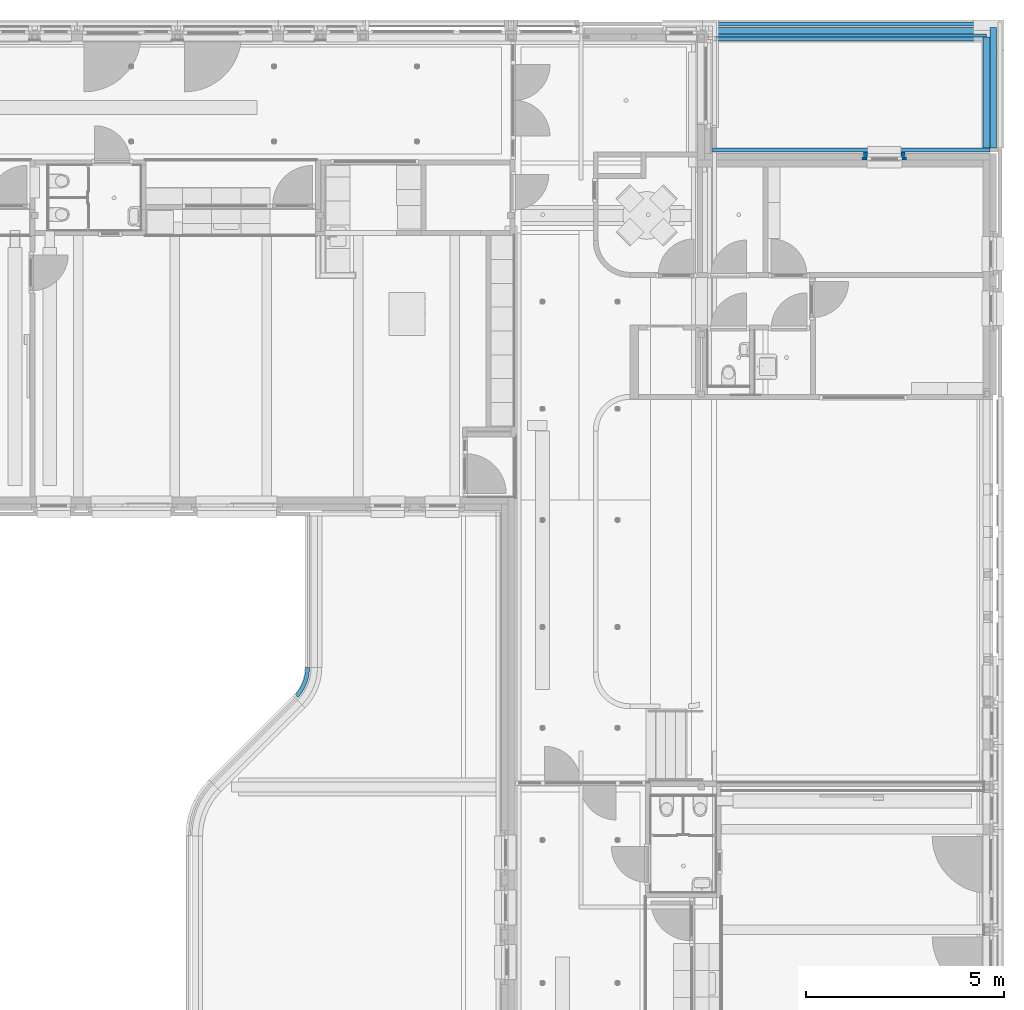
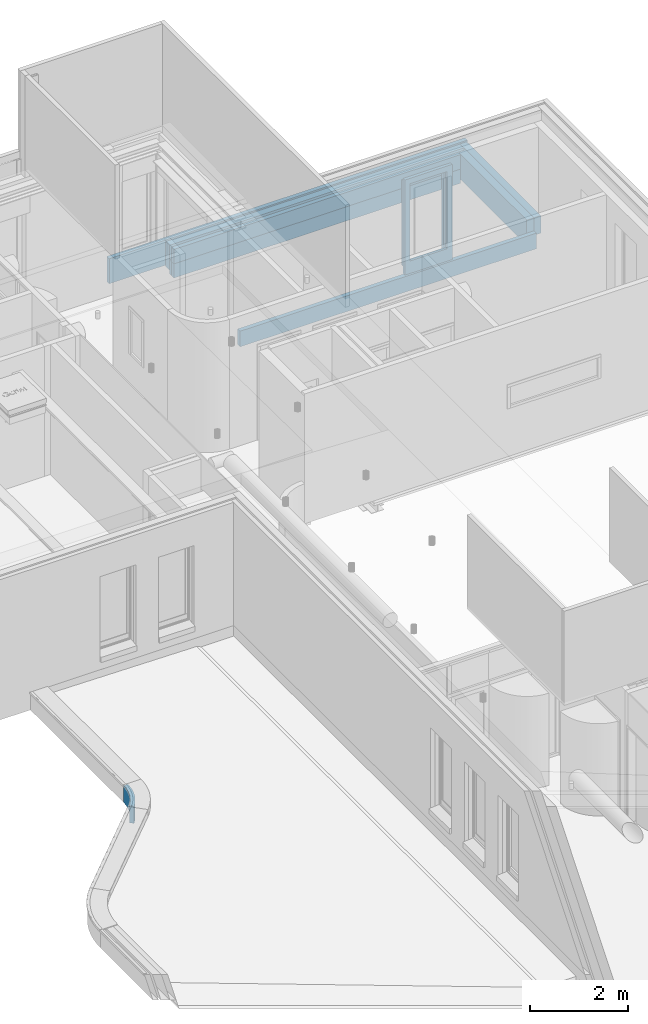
# One storey, part 59 of 128: 12 walls, 1 opening.
"""IFC2X3 building model written with IfcOpenShell, lengths in millimetres."""

from ifc_helpers import new_model, entity, si_unit, converted_unit, derived_unit, direction, frame, frame_2d, origin, place, context, subcontext, project, spatial, polyline, circle_curve, parameter, trimmed, segment, composite_curve, rectangle, outline, extrude, material, layer, layer_set, layer_usage, type_object, element, save


model = new_model("IFC2X3")

# Units and contexts
model_context = context("Model", 3, precision=0.01, world=origin(), true_north=direction((6.123031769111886e-17, 1.0)))
body_context = subcontext(model_context, "Body", "Model", "MODEL_VIEW")
ifc_project = project(units=[si_unit("LENGTHUNIT", "METRE", prefix="MILLI"), si_unit("AREAUNIT", "SQUARE_METRE"), si_unit("VOLUMEUNIT", "CUBIC_METRE"), converted_unit("PLANEANGLEUNIT", "DEGREE", entity("IfcRatioMeasure", 0.017453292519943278), si_unit("PLANEANGLEUNIT", "RADIAN"), dimensions=[0, 0, 0, 0, 0, 0, 0]), si_unit("MASSUNIT", "GRAM", prefix="KILO"), derived_unit("MASSDENSITYUNIT", [(si_unit("MASSUNIT", "GRAM", prefix="KILO"), 1), (si_unit("LENGTHUNIT", "METRE"), -3)]), derived_unit("IONCONCENTRATIONUNIT", [(si_unit("MASSUNIT", "GRAM", prefix="KILO"), 1), (si_unit("LENGTHUNIT", "METRE"), -3)]), derived_unit("MOMENTOFINERTIAUNIT", [(si_unit("LENGTHUNIT", "METRE"), 4)]), si_unit("TIMEUNIT", "SECOND"), si_unit("FREQUENCYUNIT", "HERTZ"), si_unit("THERMODYNAMICTEMPERATUREUNIT", "DEGREE_CELSIUS"), derived_unit("THERMALTRANSMITTANCEUNIT", [(si_unit("MASSUNIT", "GRAM", prefix="KILO"), 1), (si_unit("THERMODYNAMICTEMPERATUREUNIT", "KELVIN"), -1), (si_unit("TIMEUNIT", "SECOND"), -3)]), derived_unit("THERMALCONDUCTANCEUNIT", [(si_unit("MASSUNIT", "GRAM", prefix="KILO"), 1), (si_unit("THERMODYNAMICTEMPERATUREUNIT", "KELVIN"), -1), (si_unit("TIMEUNIT", "SECOND"), -3), (si_unit("LENGTHUNIT", "METRE"), 1)]), derived_unit("VOLUMETRICFLOWRATEUNIT", [(si_unit("LENGTHUNIT", "METRE"), 3), (si_unit("TIMEUNIT", "SECOND"), -1)]), derived_unit("MASSFLOWRATEUNIT", [(si_unit("MASSUNIT", "GRAM", prefix="KILO"), 1), (si_unit("TIMEUNIT", "SECOND"), -1)]), derived_unit("ROTATIONALFREQUENCYUNIT", [(si_unit("TIMEUNIT", "SECOND"), -1)]), si_unit("ELECTRICCURRENTUNIT", "AMPERE"), si_unit("ELECTRICVOLTAGEUNIT", "VOLT"), si_unit("POWERUNIT", "WATT"), si_unit("FORCEUNIT", "NEWTON", prefix="KILO"), si_unit("ILLUMINANCEUNIT", "LUX"), si_unit("LUMINOUSFLUXUNIT", "LUMEN"), si_unit("LUMINOUSINTENSITYUNIT", "CANDELA"), derived_unit("USERDEFINED", [(si_unit("MASSUNIT", "GRAM", prefix="KILO"), -1), (si_unit("LENGTHUNIT", "METRE"), -2), (si_unit("TIMEUNIT", "SECOND"), 3), (si_unit("LUMINOUSFLUXUNIT", "LUMEN"), 1)]), derived_unit("USERDEFINED", [(si_unit("MASSUNIT", "GRAM", prefix="KILO"), 1), (si_unit("TIMEUNIT", "SECOND"), -3), (si_unit("LENGTHUNIT", "METRE"), 3), (si_unit("ELECTRICCURRENTUNIT", "AMPERE"), -2)]), derived_unit("SOUNDPOWERUNIT", [(si_unit("MASSUNIT", "GRAM", prefix="KILO"), 1), (si_unit("TIMEUNIT", "SECOND"), -3), (si_unit("LENGTHUNIT", "METRE"), 2)]), derived_unit("SOUNDPRESSUREUNIT", [(si_unit("MASSUNIT", "GRAM", prefix="KILO"), 1), (si_unit("LENGTHUNIT", "METRE"), -1), (si_unit("TIMEUNIT", "SECOND"), -2)]), derived_unit("LINEARVELOCITYUNIT", [(si_unit("LENGTHUNIT", "METRE"), 1), (si_unit("TIMEUNIT", "SECOND"), -1)]), si_unit("PRESSUREUNIT", "PASCAL"), derived_unit("USERDEFINED", [(si_unit("MASSUNIT", "GRAM", prefix="KILO"), 1), (si_unit("LENGTHUNIT", "METRE"), -2), (si_unit("TIMEUNIT", "SECOND"), -2)]), derived_unit("LINEARFORCEUNIT", [(si_unit("MASSUNIT", "GRAM", prefix="KILO"), 1), (si_unit("TIMEUNIT", "SECOND"), -2)]), derived_unit("PLANARFORCEUNIT", [(si_unit("MASSUNIT", "GRAM", prefix="KILO"), 1), (si_unit("LENGTHUNIT", "METRE"), -1), (si_unit("TIMEUNIT", "SECOND"), -2)]), derived_unit("SPECIFICHEATCAPACITYUNIT", [(si_unit("THERMODYNAMICTEMPERATUREUNIT", "KELVIN"), -1), (si_unit("LENGTHUNIT", "METRE"), 2), (si_unit("TIMEUNIT", "SECOND"), -2)]), derived_unit("HEATINGVALUEUNIT", [(si_unit("LENGTHUNIT", "METRE"), 2), (si_unit("TIMEUNIT", "SECOND"), -2)]), derived_unit("VAPORPERMEABILITYUNIT", [(si_unit("LENGTHUNIT", "METRE"), -1), (si_unit("TIMEUNIT", "SECOND"), 1)]), derived_unit("DYNAMICVISCOSITYUNIT", [(si_unit("MASSUNIT", "GRAM", prefix="KILO"), 1), (si_unit("TIMEUNIT", "SECOND"), -1), (si_unit("LENGTHUNIT", "METRE"), -1)]), derived_unit("THERMALEXPANSIONCOEFFICIENTUNIT", [(si_unit("THERMODYNAMICTEMPERATUREUNIT", "KELVIN"), -1)]), derived_unit("MODULUSOFELASTICITYUNIT", [(si_unit("MASSUNIT", "GRAM", prefix="KILO"), 1), (si_unit("LENGTHUNIT", "METRE"), -1), (si_unit("TIMEUNIT", "SECOND"), -2)]), derived_unit("ISOTHERMALMOISTURECAPACITYUNIT", [(si_unit("LENGTHUNIT", "METRE"), 3), (si_unit("MASSUNIT", "GRAM", prefix="KILO"), -1)]), derived_unit("MOISTUREDIFFUSIVITYUNIT", [(si_unit("TIMEUNIT", "SECOND"), -1), (si_unit("LENGTHUNIT", "METRE"), 2)])], contexts=[model_context])

# Site, building, storey
site_placement = place(None, frame((0.0, 300.0, 0.0)))
site = spatial("IfcSite", under=ifc_project, at=site_placement, Name="<Kadastrale nummers>", CompositionType="ELEMENT")
building_placement = place(site_placement, origin())
building = spatial("IfcBuilding", under=site, at=building_placement, CompositionType="ELEMENT")
storey_placement = place(building_placement, frame((0.0, 0.0, 3560.0000331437)))
storey = spatial("IfcBuildingStorey", under=building, at=storey_placement, Name="01 eerste verdieping", CompositionType="ELEMENT", Elevation=3560.0000331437)

# Walls
ifc_material_1 = material(Name="ISR_Metselwerk")
ifc_layer_1 = layer(ifc_material_1, 100.0)
ifc_layer_set_1 = layer_set([ifc_layer_1], Name="Basic Wall:21_DAT_metselwerk_100")
ifc_layer_usage_1 = layer_usage(ifc_layer_set_1, "AXIS2", "POSITIVE", -50.0)
wall_type_1 = type_object("IfcWallType", Name="Basic Wall:21_DAT_metselwerk_100", PredefinedType="STANDARD", material=ifc_layer_set_1)
wall_1_placement = place(storey_placement, frame((40418.0, 50125.0, 90.00000187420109)))
element("IfcWallStandardCase", 1, at=wall_1_placement, inside=storey, type_object=wall_type_1, material=ifc_layer_usage_1, Name="Basic Wall:21_DAT_metselwerk_100", ObjectType="Basic Wall:21_DAT_metselwerk_100", context=body_context, shape_type="SweptSolid", body=[
    extrude(rectangle(XDim=8456.99999999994, YDim=99.9999999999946, at=frame_2d((4228.49999999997, 4.209965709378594e-12), x_axis=(-1.0, 0.0))), origin(), (0.0, 0.0, 1.0), 624.9999999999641),
])
ifc_layer_usage_2 = layer_usage(ifc_layer_set_1, "AXIS2", "NEGATIVE", 50.0)
wall_2_placement = place(storey_placement, frame((31199.95402504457, 33192.55108253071, 89.99997731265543)))
element("IfcWallStandardCase", 2, at=wall_2_placement, inside=storey, type_object=wall_type_1, material=ifc_layer_usage_2, Name="Basic Wall:21_DAT_metselwerk_100", ObjectType="Basic Wall:21_DAT_metselwerk_100", context=body_context, shape_type="SweptSolid", body=[
    extrude(outline(composite_curve([segment(trimmed(circle_curve(frame_2d((-799.9171083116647, 718.1626694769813), x_axis=(1.0, 0.0)), 1025.0), [parameter(318.22953127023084)], [parameter(8.142219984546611e-13)], True, "PARAMETER"), False, "CONTINUOUS"), segment(polyline([(-35.452178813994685, 35.360815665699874), (37.205446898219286, -33.40291485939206)]), True, "CONTINUOUS"), segment(trimmed(circle_curve(frame_2d((-799.9171083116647, 718.1626694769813), x_axis=(1.0, 0.0)), 1125.0), [parameter(318.0826204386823)], [parameter(4.579998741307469e-13)], True, "PARAMETER"), True, "CONTINUOUS"), segment(polyline([(325.08289168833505, 718.1626694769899), (225.0828916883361, 718.1626694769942)]), True, "CONTINUOUS")], self_intersect=False)), origin(), (0.0, 0.0, 1.0), 424.9999895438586),
])
wall_3_placement = place(storey_placement, frame((45540.0, 46900.0, 715.0000018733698), z_axis=(0.0, 0.0, 1.0), x_axis=(0.0, -1.0, 0.0)))
element("IfcWallStandardCase", 3, at=wall_3_placement, inside=storey, type_object=wall_type_1, material=ifc_layer_usage_2, Name="Basic Wall:21_DAT_metselwerk_100", ObjectType="Basic Wall:21_DAT_metselwerk_100", context=body_context, shape_type="SweptSolid", body=[
    extrude(rectangle(XDim=110.00000000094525, YDim=99.9999999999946, at=frame_2d((55.000000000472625, 2.3163693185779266e-12), x_axis=(-1.0, 0.0))), origin(), (0.0, 0.0, 1.0), 2125.0000000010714),
])
wall_4_placement = place(storey_placement, frame((46480.0, 46900.0, 715.0000018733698), z_axis=(0.0, 0.0, 1.0), x_axis=(0.0, -1.0, 0.0)))
element("IfcWallStandardCase", 4, at=wall_4_placement, inside=storey, type_object=wall_type_1, material=ifc_layer_usage_1, Name="Basic Wall:21_DAT_metselwerk_100", ObjectType="Basic Wall:21_DAT_metselwerk_100", context=body_context, shape_type="SweptSolid", body=[
    extrude(rectangle(XDim=110.00000000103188, YDim=99.9999999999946, at=frame_2d((55.00000000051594, 2.3163693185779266e-12), x_axis=(-1.0, 0.0))), origin(), (0.0, 0.0, 1.0), 2125.0000000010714),
])
wall_5_placement = place(storey_placement, frame((48500.0, 49750.0, 355.0), z_axis=(0.0, 0.0, 1.0), x_axis=(-1.0, 0.0, 0.0)))
element("IfcWallStandardCase", 5, at=wall_5_placement, inside=storey, type_object=wall_type_1, material=ifc_layer_usage_2, Name="Basic Wall:21_DAT_metselwerk_100", ObjectType="Basic Wall:21_DAT_metselwerk_100", context=body_context, shape_type="SweptSolid", body=[
    extrude(rectangle(XDim=6775.000000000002, YDim=99.99999999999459, at=frame_2d((3387.500000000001, 0.0), x_axis=(-1.0, 0.0))), origin(), (0.0, 0.0, 1.0), 360.000001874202),
])
ifc_material_2 = material(Name="ISR_Gips")
ifc_layer_2 = layer(ifc_material_2, 1.0)
ifc_material_3 = material(Name="ISR_Kalkzandsteen")
ifc_layer_3 = layer(ifc_material_3, 173.0)
ifc_layer_4 = layer(ifc_material_2, 1.0)
ifc_layer_set_2 = layer_set([ifc_layer_2, ifc_layer_3, ifc_layer_4], Name="Basic Wall:28_DAT_kalkzandsteen_175mm")
ifc_layer_usage_3 = layer_usage(ifc_layer_set_2, "AXIS2", "NEGATIVE", 87.49999999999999)
wall_type_2 = type_object("IfcWallType", Name="Basic Wall:28_DAT_kalkzandsteen_175mm", PredefinedType="STANDARD", material=ifc_layer_set_2)
wall_6_placement = place(storey_placement, frame((48587.50000000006, 47000.0, 90.00000187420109), z_axis=(0.0, 0.0, 1.0), x_axis=(0.0, 1.0, 0.0)))
element("IfcWallStandardCase", 6, at=wall_6_placement, inside=storey, type_object=wall_type_2, material=ifc_layer_usage_3, Name="Basic Wall:28_DAT_kalkzandsteen_175mm", ObjectType="Basic Wall:28_DAT_kalkzandsteen_175mm", context=body_context, shape_type="SweptSolid", body=[
    extrude(rectangle(XDim=2799.9999999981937, YDim=174.99999999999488, at=frame_2d((1399.9999999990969, 1.4921397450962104e-13), x_axis=(-1.0, 0.0))), origin(), (0.0, 0.0, 1.0), 625.0000000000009),
])
ifc_material_4 = material(Name="ISR_Isolatie")
ifc_layer_5 = layer(ifc_material_4, 160.0)
ifc_layer_set_3 = layer_set([ifc_layer_5], Name="Basic Wall:21_DAT_isolatie minerale wol_160")
ifc_layer_usage_4 = layer_usage(ifc_layer_set_3, "AXIS2", "NEGATIVE", 80.0)
wall_type_3 = type_object("IfcWallType", Name="Basic Wall:21_DAT_isolatie minerale wol_160", PredefinedType="STANDARD", material=ifc_layer_set_3)
wall_7_placement = place(storey_placement, frame((48755.0, 47000.0, 274.5137571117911), z_axis=(0.0, 0.0, 1.0), x_axis=(0.0, 1.0, 0.0)))
element("IfcWallStandardCase", 7, at=wall_7_placement, inside=storey, type_object=wall_type_3, material=ifc_layer_usage_4, Name="Basic Wall:21_DAT_isolatie minerale wol_160", ObjectType="Basic Wall:21_DAT_isolatie minerale wol_160", context=body_context, shape_type="SweptSolid", body=[
    extrude(rectangle(XDim=3034.999999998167, YDim=159.9999999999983, at=frame_2d((1517.4999999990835, 5.684341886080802e-14), x_axis=(-1.0, 0.0))), origin(), (0.0, 0.0, 1.0), 440.4862447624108),
])
wall_8_placement = place(storey_placement, frame((48675.0, 49955.0, 90.00000187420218), z_axis=(0.0, 0.0, 1.0), x_axis=(-1.0, 0.0, 0.0)))
element("IfcWallStandardCase", 8, at=wall_8_placement, inside=storey, type_object=wall_type_3, material=ifc_layer_usage_4, Name="Basic Wall:21_DAT_isolatie minerale wol_160", ObjectType="Basic Wall:21_DAT_isolatie minerale wol_160", context=body_context, shape_type="SweptSolid", body=[
    extrude(rectangle(XDim=6950.000000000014, YDim=159.9999999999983, at=frame_2d((3475.000000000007, -2.7000623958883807e-13), x_axis=(-1.0, 0.0))), origin(), (0.0, 0.0, 1.0), 621.988643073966),
])
ifc_material_5 = material(Name="DAT_Gasbeton")
ifc_layer_6 = layer(ifc_material_5, 100.0)
ifc_layer_set_4 = layer_set([ifc_layer_6], Name="Basic Wall:21_DAT_gasbeton_100")
ifc_layer_usage_5 = layer_usage(ifc_layer_set_4, "AXIS2", "NEGATIVE", 50.0)
wall_type_4 = type_object("IfcWallType", Name="Basic Wall:21_DAT_gasbeton_100", PredefinedType="STANDARD", material=ifc_layer_set_4)
wall_9_placement = place(storey_placement, frame((48500.0, 49750.0, 0.0), z_axis=(0.0, 0.0, 1.0), x_axis=(-1.0, 0.0, 0.0)))
element("IfcWallStandardCase", 9, at=wall_9_placement, inside=storey, type_object=wall_type_4, material=ifc_layer_usage_5, Name="Basic Wall:21_DAT_gasbeton_100", ObjectType="Basic Wall:21_DAT_gasbeton_100", context=body_context, shape_type="SweptSolid", body=[
    extrude(rectangle(XDim=6774.999999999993, YDim=99.99999999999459, at=frame_2d((3387.4999999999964, 0.0), x_axis=(-1.0, 0.0))), origin(), (0.0, 0.0, 1.0), 354.99999999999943),
])
ifc_layer_usage_6 = layer_usage(ifc_layer_set_4, "AXIS2", "POSITIVE", -50.0)
wall_10_placement = place(storey_placement, frame((48675.0, 46950.0, 0.0), z_axis=(0.0, 0.0, 1.0), x_axis=(-1.0, 0.0, 0.0)))
element("IfcWallStandardCase", 10, at=wall_10_placement, inside=storey, type_object=wall_type_4, material=ifc_layer_usage_6, Name="Basic Wall:21_DAT_gasbeton_100", ObjectType="Basic Wall:21_DAT_gasbeton_100", context=body_context, shape_type="SweptSolid", body=[
    extrude(rectangle(XDim=7000.00000000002, YDim=99.9999999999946, at=frame_2d((3500.00000000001, 7.460698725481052e-14), x_axis=(-1.0, 0.0))), origin(), (0.0, 0.0, 1.0), 389.99996685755),
])

# Wall, opening
ifc_layer_7 = layer(ifc_material_4, 70.0)
ifc_layer_set_5 = layer_set([ifc_layer_7], Name="Basic Wall:21_DAT_isolatie hard_74")
ifc_layer_usage_7 = layer_usage(ifc_layer_set_5, "AXIS2", "POSITIVE", -35.0)
wall_type_5 = type_object("IfcWallType", Name="Basic Wall:21_DAT_isolatie hard_74", PredefinedType="STANDARD", material=ifc_layer_set_5)
wall_11_placement = place(storey_placement, frame((46570.0, 46735.0, 589.9999668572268), z_axis=(0.0, 0.0, 1.0), x_axis=(-1.0, 0.0, 0.0)))
wall_11 = element("IfcWallStandardCase", 11, at=wall_11_placement, inside=storey, type_object=wall_type_5, material=ifc_layer_usage_7, Name="Basic Wall:21_DAT_isolatie hard_74", ObjectType="Basic Wall:21_DAT_isolatie hard_74", context=body_context, shape_type="SweptSolid", body=[
    extrude(rectangle(XDim=1119.9999999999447, YDim=70.00000000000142, at=frame_2d((559.9999999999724, -3.268496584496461e-13), x_axis=(-1.0, 0.0))), origin(), (0.0, 0.0, 1.0), 2375.000035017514),
])
opening_placement = place(wall_11_placement, origin())
element("IfcOpeningElement", 12, at=opening_placement, cuts=wall_11, Name="Basic Wall:21_DAT_isolatie hard_74", ObjectType="Opening", context=body_context, shape_type="SweptSolid", body=[
    extrude(rectangle(XDim=1929.9999999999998, YDim=880.0000000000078, at=frame_2d((5.684341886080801e-13, 0.0), x_axis=(1.0, 0.0))), frame((560.0, -187.40000000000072, 1275.0000350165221), z_axis=(0.0, 1.0, 0.0), x_axis=(0.0, 0.0, 1.0)), (0.0, 0.0, 1.0), 374.80000000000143),
])

# Wall
ifc_layer_usage_8 = layer_usage(ifc_layer_set_5, "AXIS2", "NEGATIVE", 35.0)
wall_12_placement = place(storey_placement, frame((48587.50000000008, 49835.0, 0.0), z_axis=(0.0, 0.0, 1.0), x_axis=(-1.0, 0.0, 0.0)))
element("IfcWallStandardCase", 13, at=wall_12_placement, inside=storey, type_object=wall_type_5, material=ifc_layer_usage_8, Name="Basic Wall:21_DAT_isolatie hard_74", ObjectType="Basic Wall:21_DAT_isolatie hard_74", context=body_context, shape_type="SweptSolid", body=[
    extrude(rectangle(XDim=6862.499999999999, YDim=70.0000000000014, at=frame_2d((3431.2499999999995, 0.0), x_axis=(-1.0, 0.0))), origin(), (0.0, 0.0, 1.0), 354.99999999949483),
])

save(model, "model.ifc")
